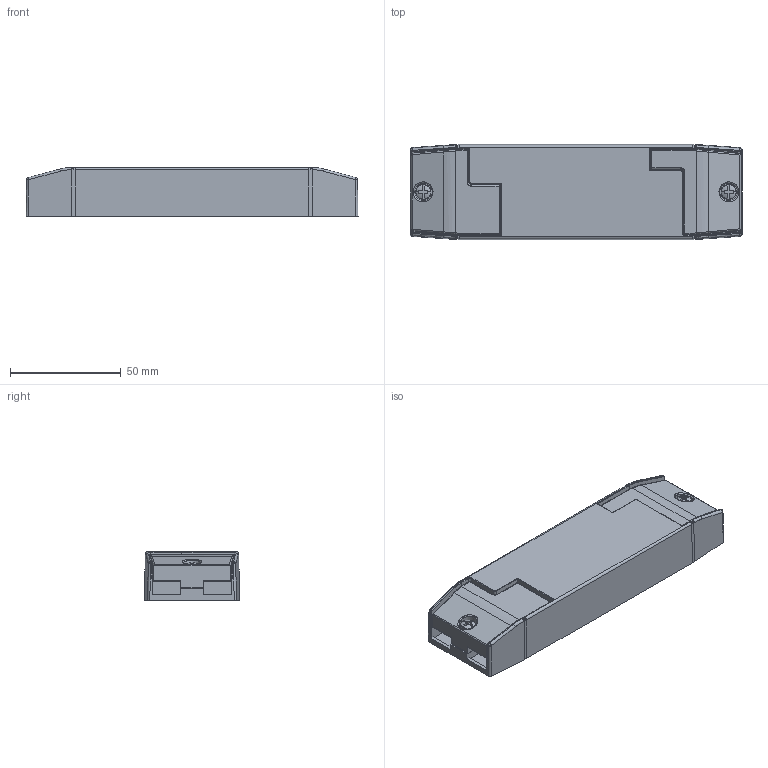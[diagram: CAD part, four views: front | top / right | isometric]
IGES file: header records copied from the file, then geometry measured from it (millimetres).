
Start section: SolidWorks IGES file using analytic representation for surfaces
Global section: file name: C:\Temp\OLQ-batchEngine\queue\temp_\4346795swm000.igs; native system: SolidWorks 2020; preprocessor: SolidWorks 2020; author: SYSTEM; date: 210923.135333; units: millimetre
Bounding box: 149.6 x 42.85 x 22 mm (x, y, z)
Surface area: 30676.1 mm2 (no closed solid volume)
Topology: 0 solids, 0 shells, 318 faces, 2732 edges, 2732 vertices
Faces by surface type: bspline 176, revolution 142
